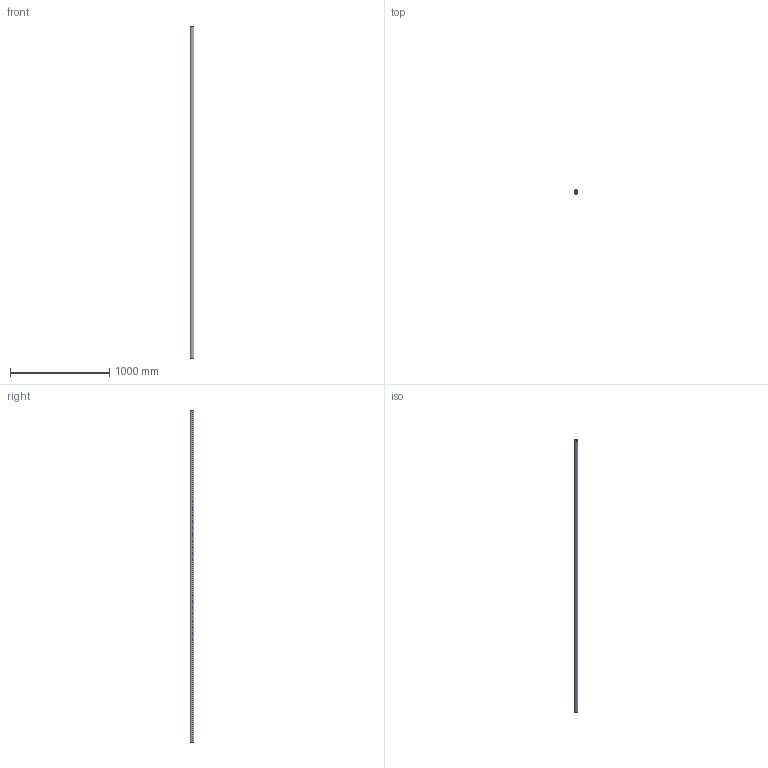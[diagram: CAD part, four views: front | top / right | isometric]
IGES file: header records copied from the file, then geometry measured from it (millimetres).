
Start section: SolidWorks IGES file using analytic representation for surfaces
Global section: file name: C:\Users\IanO\Desktop\L1771_v2\L1771.40_v2\L1771.40_v2_20230705_IGES\L1771.40-3350.igs; native system: SolidWorks 2019; preprocessor: SolidWorks 2019; author: IanO; date: 230705.161827; units: millimetre
Bounding box: 40 x 40 x 3350 mm (x, y, z)
Surface area: 716936.6 mm2 (no closed solid volume)
Topology: 0 solids, 0 shells, 6 faces, 272 edges, 272 vertices
Faces by surface type: revolution 4, bspline 2
